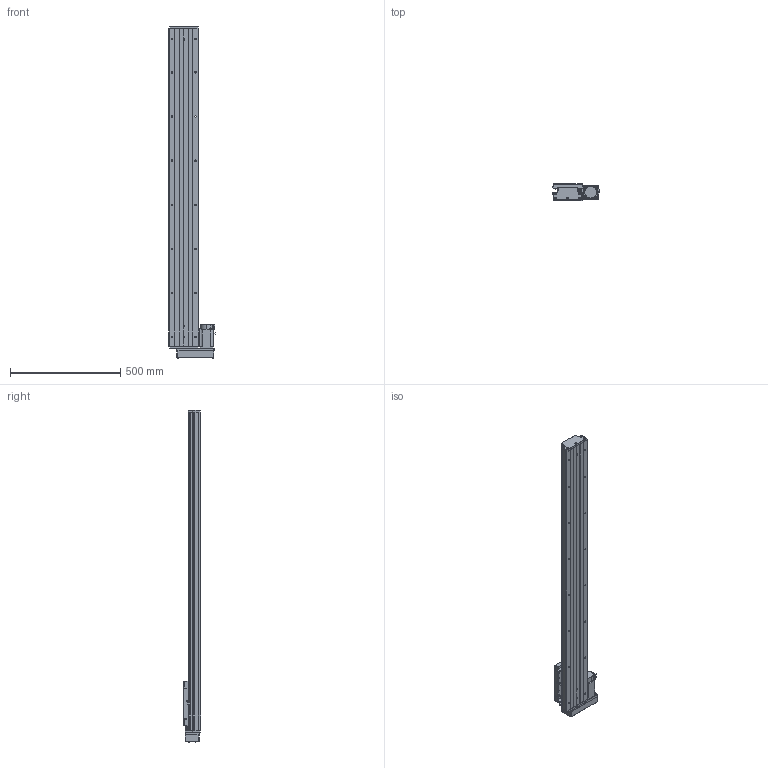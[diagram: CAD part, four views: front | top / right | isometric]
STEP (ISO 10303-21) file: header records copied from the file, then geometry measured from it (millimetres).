
FILE_DESCRIPTION (( 'STEP AP203' ), '1' );
FILE_NAME ('GTH14-1200-BR-M40-C4.step', '2023-06-30T08:52:45', ( '微软用户' ), ( '微软中国' ), 'SwSTEP 2.0', 'SolidWorks 2020', '' );
FILE_SCHEMA (( 'CONFIG_CONTROL_DESIGN' ));
Length unit declared in the file: millimetre
Products named in the file (19): GTH14-001_1200; EE_SX911P_R; HG-KN43J-S100; GTH14-002_GTH14-002; CTHA60-016; GBT 70.2-M4¡Á35_M4¡Á35; GTH14-004; GBT 70.1-M3℅5; GTH14-015-2_CTHA86-015-2; GTH14-005; GBT77-2000 M3×3; GTH14-033; GB1155-6X6; GTH14-031; GTH14-1200-BR-M40-C4; GBT70.1 M5℅16; GBT 70.2-M3¡Á5_M3¡Á6; CTHA60-017; す晦芛蹟隊 M3℅5
Assembly tree (58 placements, depth 2):
  GTH14-1200-BR-M40-C4
    GTH14-001_1200
    GTH14-002_GTH14-002
    GTH14-004
    GTH14-005
    GB1155-6X6  x2
    GBT70.1 M5℅16  x10
    CTHA60-017  x3
    EE_SX911P_R  x3
    CTHA60-016  x2
    GBT 70.1-M3℅5  x6
    GBT77-2000 M3×3  x6
    GTH14-031
    GBT 70.2-M3¡Á5_M3¡Á6  x8
    す晦芛蹟隊 M3℅5  x6
    HG-KN43J-S100
    GBT 70.2-M4¡Á35_M4¡Á35  x4
    GTH14-015-2_CTHA86-015-2
    GTH14-033
Bounding box: 209.3 x 78 x 1504.2 mm (x, y, z)
Volume: 7925002.1 mm3; surface area: 1253679 mm2
Topology: 61 solids, 61 shells, 2483 faces, 5905 edges, 3642 vertices
Faces by surface type: plane 1313, cylinder 680, cone 314, torus 124, sphere 32, bspline 20
Entity records: 45082 total; most frequent: CARTESIAN_POINT 10007, DIRECTION 6669, ORIENTED_EDGE 6500, EDGE_CURVE 3250, AXIS2_PLACEMENT_3D 2296, VECTOR 2077, LINE 2077, VERTEX_POINT 2060
